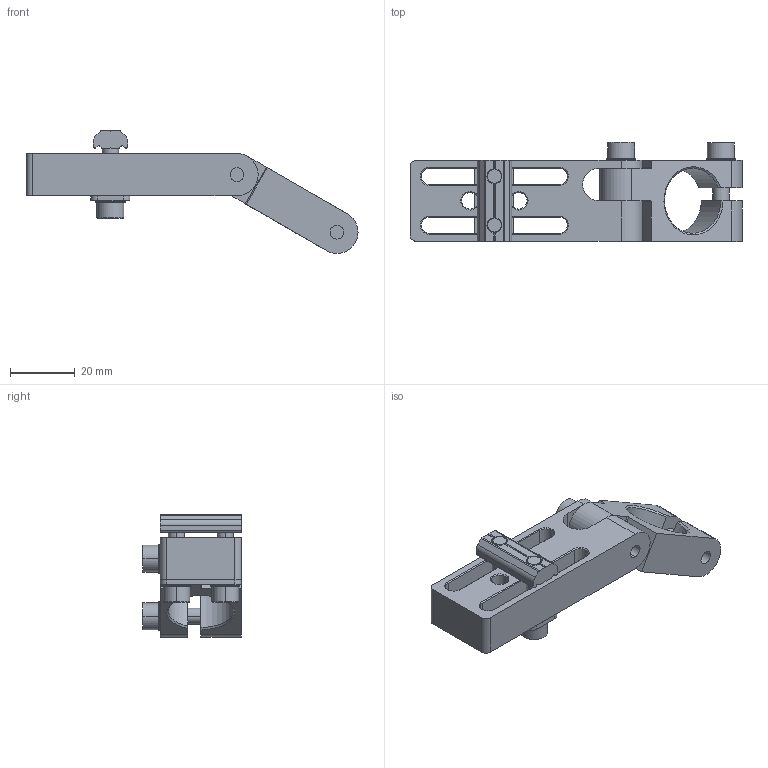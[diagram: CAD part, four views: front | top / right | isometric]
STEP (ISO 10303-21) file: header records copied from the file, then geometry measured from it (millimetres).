
FILE_DESCRIPTION (( 'STEP AP214' ), '1' );
FILE_NAME ('SMBE3-2040T.STEP', '2022-12-14T03:43:42', ( '' ), ( '' ), 'SwSTEP 2.0', 'SolidWorks 2018', '' );
FILE_SCHEMA (( 'AUTOMOTIVE_DESIGN' ));
Length unit declared in the file: millimetre
Products named in the file (1): SMBE3-2040T
Bounding box: 102.24 x 30.45 x 37.8 mm (x, y, z)
Volume: 25610.6 mm3; surface area: 16741.8 mm2
Topology: 12 solids, 12 shells, 892 faces, 2559 edges, 1687 vertices
Faces by surface type: plane 743, cylinder 94, cone 55
Entity records: 39473 total; most frequent: CARTESIAN_POINT 5337, DIRECTION 5190, ORIENTED_EDGE 5118, EDGE_CURVE 2559, AXIS2_PLACEMENT_3D 1772, VERTEX_POINT 1687, VECTOR 1646, LINE 1646
